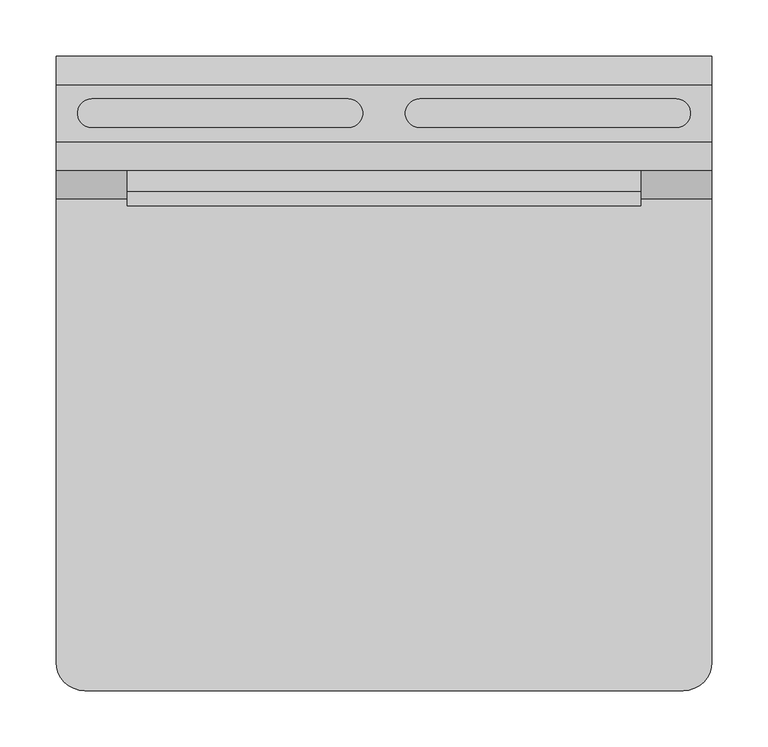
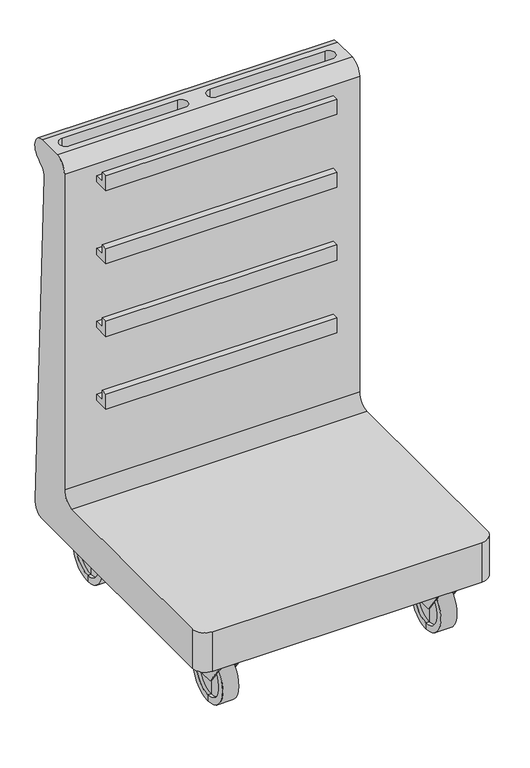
"""IFC4 building model written with IfcOpenShell, lengths in millimetres: furniture geometry."""

import ifcopenshell
import ifcopenshell.guid

model = None  # the IFC model being written
_history = None  # IfcOwnerHistory: only IFC2X3 demands one
_inside = {}  # id of a spatial element -> (the spatial element, [elements in it])
_under = {}  # id of a project, library or spatial element -> (it, [spatial elements below it])
_declared = {}  # id of a project -> (the project, [libraries it declares])
_typed = {}  # id of a type object -> (the type object, [elements of that type])
_made_of = {}  # id of a material, layer set ... -> (it, [elements and type objects made of it])


def new_model(schema):
    """Start an empty IFC model of exactly this schema.

    Asked for "IFC4X3", IfcOpenShell would pick the latest addendum, in which some entities
    have other attributes; the version numbers below select the first issue.
    IFC2X3 requires an IfcOwnerHistory on every rooted entity: one is made here for all.
    """
    global model, _history
    if schema == "IFC4X3":
        model = ifcopenshell.file(schema_version=(4, 3, 0, 0))
    else:
        model = ifcopenshell.file(schema=schema)
    _inside.clear()
    _under.clear()
    _declared.clear()
    _typed.clear()
    _made_of.clear()
    _history = None
    if model.schema == "IFC2X3":
        org = make("IfcOrganization", Name="unknown")
        user = make(
            "IfcPersonAndOrganization",
            ThePerson=make("IfcPerson", FamilyName="unknown"),
            TheOrganization=org,
        )
        app = make(
            "IfcApplication",
            ApplicationDeveloper=org,
            Version="unknown",
            ApplicationFullName="unknown",
            ApplicationIdentifier="unknown",
        )
        _history = make(
            "IfcOwnerHistory",
            OwningUser=user,
            OwningApplication=app,
            ChangeAction="ADDED",
            CreationDate=0,
        )
    return model


def make(cls, **values):
    """One entity of the class cls with the attributes given. An attribute that is None is left unset."""
    return model.create_entity(
        cls, **{name: value for name, value in values.items() if value is not None}
    )


def rooted(cls, **values):
    """An entity with a GlobalId (a new one), such as an element, a storey or a relation."""
    return make(cls, GlobalId=ifcopenshell.guid.new(), OwnerHistory=_history, **values)


def si_unit(unit_type, name, prefix=None):
    """IfcSIUnit, for example si_unit("LENGTHUNIT", "METRE", prefix="MILLI")."""
    return make("IfcSIUnit", UnitType=unit_type, Prefix=prefix, Name=name)


def assignment(units):
    """IfcUnitAssignment: the units of a project."""
    return None if units is None else make("IfcUnitAssignment", Units=units)


def point(xyz):
    """IfcCartesianPoint."""
    return None if xyz is None else make("IfcCartesianPoint", Coordinates=xyz)


def direction(xyz):
    """IfcDirection."""
    return None if xyz is None else make("IfcDirection", DirectionRatios=xyz)


def frame(location, z_axis=None, x_axis=None):
    """IfcAxis2Placement3D, a coordinate frame: its origin and axes. An axis left out is left unset."""
    return make(
        "IfcAxis2Placement3D",
        Location=point(location),
        Axis=direction(z_axis),
        RefDirection=direction(x_axis),
    )


def origin():
    """The frame at (0, 0, 0) with its axes left unset."""
    return frame((0.0, 0.0, 0.0))


def place(relative_to, where):
    """IfcLocalPlacement: puts the frame where relative to a parent placement (None: the world)."""
    return make(
        "IfcLocalPlacement", PlacementRelTo=relative_to, RelativePlacement=where
    )


def context(
    kind, dimensions, precision=None, world=None, true_north=None, identifier=None
):
    """IfcGeometricRepresentationContext, for example the 3D "Model" context."""
    return make(
        "IfcGeometricRepresentationContext",
        ContextIdentifier=identifier,
        ContextType=kind,
        CoordinateSpaceDimension=dimensions,
        Precision=precision,
        WorldCoordinateSystem=world,
        TrueNorth=true_north,
    )


def project(units=None, contexts=None):
    """IfcProject with its units and contexts."""
    return rooted(
        "IfcProject",
        Name="project",
        RepresentationContexts=contexts,
        UnitsInContext=assignment(units),
    )


def spatial(cls, under=None, at=None, **own):
    """A site, building, storey or space (cls), placed at a placement, below another one or the project."""
    s = rooted(cls, ObjectPlacement=at, **own)
    if under is not None:
        _under.setdefault(under.id(), (under, []))[1].append(s)
    return s


def polyline(points):
    """IfcPolyline through the points."""
    return make("IfcPolyline", Points=[point(p) for p in points])


def circle_curve(where, radius):
    """IfcCircle in the frame where."""
    return make("IfcCircle", Position=where, Radius=radius)


def outline(outer, holes=None, kind="AREA"):
    """IfcArbitraryClosedProfileDef: a profile drawn as a closed curve; with holes, ...WithVoids."""
    if holes is None:
        return make("IfcArbitraryClosedProfileDef", ProfileType=kind, OuterCurve=outer)
    return make(
        "IfcArbitraryProfileDefWithVoids",
        ProfileType=kind,
        OuterCurve=outer,
        InnerCurves=holes,
    )


def extrude(swept, where, along, depth):
    """IfcExtrudedAreaSolid: the profile swept, set in the frame where, extruded along a direction by depth."""
    return make(
        "IfcExtrudedAreaSolid",
        SweptArea=swept,
        Position=where,
        ExtrudedDirection=direction(along),
        Depth=depth,
    )


def faces_of(points, faces, orient=None, outer=None):
    """IfcFace entities. A face is a list of loops; a loop is a list of indices into points, from 0.

    orient and outer hold one flag for each loop. By default every Orientation is true, the
    first loop of a face is its IfcFaceOuterBound and the others are IfcFaceBound.
    """
    made = []
    for i, loops in enumerate(faces):
        bounds = []
        for j, loop in enumerate(loops):
            is_outer = j == 0 if outer is None else outer[i][j]
            bounds.append(
                make(
                    "IfcFaceOuterBound" if is_outer else "IfcFaceBound",
                    Bound=make("IfcPolyLoop", Polygon=[points[k] for k in loop]),
                    Orientation=True if orient is None else orient[i][j],
                )
            )
        made.append(make("IfcFace", Bounds=bounds))
    return made


def faceted_brep(points, faces, orient=None, outer=None, voids=None):
    """IfcFacetedBrep: a solid bounded by flat faces; with voids (closed shells), ...WithVoids."""
    shared = [point(p) for p in points]
    hull = make("IfcClosedShell", CfsFaces=faces_of(shared, faces, orient, outer))
    if voids is None:
        return make("IfcFacetedBrep", Outer=hull)
    return make(
        "IfcFacetedBrepWithVoids",
        Outer=hull,
        Voids=[
            make(cls, CfsFaces=faces_of(shared, fs, o, b)) for cls, fs, o, b in voids
        ],
    )


def shape(context_of_items, identifier, shape_type, items):
    """IfcShapeRepresentation: the items that make up one representation, for example the "Body"."""
    return make(
        "IfcShapeRepresentation",
        ContextOfItems=context_of_items,
        RepresentationIdentifier=identifier,
        RepresentationType=shape_type,
        Items=items,
    )


def source(mapping_origin, context_of_items, identifier, shape_type, items):
    """IfcRepresentationMap: a shape defined once, which mapped items show again and again."""
    return make(
        "IfcRepresentationMap",
        MappingOrigin=mapping_origin,
        MappedRepresentation=shape(context_of_items, identifier, shape_type, items),
    )


def transform(
    local_origin,
    x_axis=None,
    y_axis=None,
    z_axis=None,
    scale=None,
    scale2=None,
    scale3=None,
    uniform=True,
):
    """IfcCartesianTransformationOperator3D, or its non-uniform kind. x_axis, y_axis, z_axis: its Axis1, 2, 3."""
    if uniform:
        return make(
            "IfcCartesianTransformationOperator3D",
            Axis1=direction(x_axis),
            Axis2=direction(y_axis),
            LocalOrigin=point(local_origin),
            Scale=scale,
            Axis3=direction(z_axis),
        )
    return make(
        "IfcCartesianTransformationOperator3DnonUniform",
        Axis1=direction(x_axis),
        Axis2=direction(y_axis),
        LocalOrigin=point(local_origin),
        Scale=scale,
        Axis3=direction(z_axis),
        Scale2=scale2,
        Scale3=scale3,
    )


def mapped(mapping_source, mapping_target):
    """IfcMappedItem: shows the shape of a source again, moved by a transform."""
    return make(
        "IfcMappedItem", MappingSource=mapping_source, MappingTarget=mapping_target
    )


def made_of(thing, what):
    """Note that an element or type object is made of a material, layer set ...; save() writes the relation."""
    if what is not None:
        _made_of.setdefault(what.id(), (what, []))[1].append(thing)
    return thing


def element(
    cls,
    number,
    at=None,
    inside=None,
    cuts=None,
    type_object=None,
    material=None,
    context=None,
    identifier="Body",
    shape_type=None,
    held_by="IfcProductDefinitionShape",
    body=None,
    shapes=None,
    **own,
):
    """One element of the class cls, such as IfcWall. Its Tag is "e" and its number.

    at: its placement. inside: the storey or other place that contains it. cuts: it is an
    opening in that element (IfcRelVoidsElement). A single representation is given by context,
    identifier, shape_type and body (its items); several are given by shapes. held_by: the class
    of the entity that holds the representations. save() writes the other relations.
    """
    e = rooted(cls, Tag="e%d" % number, ObjectPlacement=at, **own)
    if body is not None:
        shapes = [shape(context, identifier, shape_type, body)]
    if shapes is not None:
        e.Representation = make(held_by, Representations=shapes)
    if inside is not None:
        _inside.setdefault(inside.id(), (inside, []))[1].append(e)
    if cuts is not None:
        rooted(
            "IfcRelVoidsElement", RelatingBuildingElement=cuts, RelatedOpeningElement=e
        )
    if type_object is not None:
        _typed.setdefault(type_object.id(), (type_object, []))[1].append(e)
    return made_of(e, material)


def aggregate(whole, parts):
    """IfcRelAggregates: a whole, such as a stair, and the parts it consists of."""
    return rooted("IfcRelAggregates", RelatingObject=whole, RelatedObjects=parts)


def save(model, path):
    """Write the relations noted so far, then the file.

    IfcRelAggregates (storeys below a building ...), IfcRelContainedInSpatialStructure (elements
    in a storey), IfcRelDefinesByType, IfcRelAssociatesMaterial and IfcRelDeclares: one each for
    every whole, place, type object, material and project.
    """
    for whole, parts in _under.values():
        aggregate(whole, parts)
    for where, things in _inside.values():
        rooted(
            "IfcRelContainedInSpatialStructure",
            RelatedElements=things,
            RelatingStructure=where,
        )
    for kind, things in _typed.values():
        rooted("IfcRelDefinesByType", RelatedObjects=things, RelatingType=kind)
    for what, things in _made_of.values():
        rooted("IfcRelAssociatesMaterial", RelatedObjects=things, RelatingMaterial=what)
    for by, libraries in _declared.values():
        rooted("IfcRelDeclares", RelatingContext=by, RelatedDefinitions=libraries)
    model.write(path)


def plane_surface(at):
    """IfcPlane: the flat surface through the origin of the frame at, square to its z axis."""
    return make("IfcPlane", Position=at)


def cylinder_surface(at, radius):
    """IfcCylindricalSurface: all points at the distance radius from the z axis of the frame at."""
    return make("IfcCylindricalSurface", Position=at, Radius=radius)


def revolved_surface(curve, axis_point, axis_direction):
    """IfcSurfaceOfRevolution: the curve turned about the line through axis_point along axis_direction."""
    return make(
        "IfcSurfaceOfRevolution",
        SweptCurve=make("IfcArbitraryOpenProfileDef", ProfileType="CURVE", Curve=curve),
        AxisPosition=make("IfcAxis1Placement", Location=point(axis_point), Axis=direction(axis_direction)),
    )


def advanced_brep(points, edges, surfaces, faces):
    """IfcAdvancedBrep: a solid bounded by faces that lie on surfaces and meet in shared edges.

    An edge is (start, end): straight between two places in points (the first is 0);
    or (start, end, curve); or (start, end, curve, False) where it runs against its curve.
    A face is (place in surfaces, loops), or (place, loops, False) where it looks against
    its surface's normal. A loop lists edges by number (the first is 1), with a minus sign
    where the edge is run from its end to its start. The first loop is the outer one.
    """
    corners = [point(p) for p in points]
    vertices = [make("IfcVertexPoint", VertexGeometry=c) for c in corners]
    made = []
    for start, end, *more in edges:
        made.append(
            make(
                "IfcEdgeCurve",
                EdgeStart=vertices[start],
                EdgeEnd=vertices[end],
                EdgeGeometry=more[0] if more else make("IfcPolyline", Points=[corners[start], corners[end]]),
                SameSense=more[1] if len(more) > 1 else True,
            )
        )
    hull = []
    for where, loops, *sense in faces:
        bounds = []
        for j, loop in enumerate(loops):
            ring = [make("IfcOrientedEdge", EdgeElement=made[abs(k) - 1], Orientation=k > 0) for k in loop]
            bounds.append(
                make(
                    "IfcFaceOuterBound" if j == 0 else "IfcFaceBound",
                    Bound=make("IfcEdgeLoop", EdgeList=ring),
                    Orientation=True,
                )
            )
        hull.append(make("IfcAdvancedFace", Bounds=bounds, FaceSurface=surfaces[where], SameSense=sense[0] if sense else True))
    return make("IfcAdvancedBrep", Outer=make("IfcClosedShell", CfsFaces=hull))


def furniture_545f82d3(model_context):
    return source(origin(), model_context, "Body", "SolidModel", [
        advanced_brep(
        [(-231.775, 206.375, 0.0), (-231.775, 206.375, 101.6), (-200.025, 206.375, 101.6), (-200.025, 206.375, 0.0), (-231.775, 206.375, 12.7), (-231.775, 206.375, 88.9), (-225.425, 206.375, 12.7), (-225.425, 206.375, 88.9), (-225.425, 206.375, 50.8), (-206.375, 206.375, 12.7), (-206.375, 206.375, 88.9), (-206.375, 206.375, 50.8), (-200.025, 206.375, 12.7), (-200.025, 206.375, 88.9)],
        [
            (0, 1, circle_curve(frame((-231.775, 206.375, 50.8), z_axis=(1.0, 0.0, 0.0), x_axis=(0.0, 0.0, 1.0)), 50.8)),
            (1, 2),
            (2, 3, circle_curve(frame((-200.025, 206.375, 50.8), z_axis=(-1.0, 0.0, 0.0), x_axis=(0.0, 0.0, 1.0)), 50.8)),
            (3, 0),
            (1, 0, circle_curve(frame((-231.775, 206.375, 50.8), z_axis=(1.0, 0.0, 0.0), x_axis=(0.0, 0.0, 1.0)), 50.8)),
            (3, 2, circle_curve(frame((-200.025, 206.375, 50.8), z_axis=(-1.0, 0.0, 0.0), x_axis=(0.0, 0.0, 1.0)), 50.8)),
            (4, 5, circle_curve(frame((-231.775, 206.375, 50.8), z_axis=(1.0, 0.0, 0.0), x_axis=(0.0, 0.0, 1.0)), 38.1)),
            (5, 1),
            (0, 4),
            (5, 4, circle_curve(frame((-231.775, 206.375, 50.8), z_axis=(1.0, 0.0, 0.0), x_axis=(0.0, 0.0, 1.0)), 38.1)),
            (6, 7, circle_curve(frame((-225.425, 206.375, 50.8), z_axis=(1.0, 0.0, 0.0), x_axis=(0.0, 0.0, 1.0)), 38.1)),
            (7, 5),
            (4, 6),
            (7, 6, circle_curve(frame((-225.425, 206.375, 50.8), z_axis=(1.0, 0.0, 0.0), x_axis=(0.0, 0.0, 1.0)), 38.1)),
            (8, 7),
            (6, 8),
            (9, 10, circle_curve(frame((-206.375, 206.375, 50.8), z_axis=(1.0, 0.0, 0.0), x_axis=(0.0, 0.0, 1.0)), 38.1)),
            (10, 11),
            (11, 9),
            (10, 9, circle_curve(frame((-206.375, 206.375, 50.8), z_axis=(1.0, 0.0, 0.0), x_axis=(0.0, 0.0, 1.0)), 38.1)),
            (12, 13, circle_curve(frame((-200.025, 206.375, 50.8), z_axis=(1.0, 0.0, 0.0), x_axis=(0.0, 0.0, 1.0)), 38.1)),
            (13, 10),
            (9, 12),
            (13, 12, circle_curve(frame((-200.025, 206.375, 50.8), z_axis=(1.0, 0.0, 0.0), x_axis=(0.0, 0.0, 1.0)), 38.1)),
            (2, 13),
            (12, 3),
        ],
        [
            cylinder_surface(frame((-234.95, 206.375, 50.8), z_axis=(-1.0, 0.0, 0.0), x_axis=(0.0, 0.0, 1.0)), 50.8),
            plane_surface(frame((-231.775, 206.375, 50.8), z_axis=(-1.0, 0.0, 0.0), x_axis=(0.0, 0.0, 1.0))),
            revolved_surface(polyline([(-231.775, 206.375, 88.9), (-225.425, 206.375, 88.9)]), (-234.95, 206.375, 50.8), (-1.0, 0.0, 0.0)),
            plane_surface(frame((-225.425, 206.375, 50.8), z_axis=(-1.0, 0.0, 0.0), x_axis=(0.0, 0.0, 1.0))),
            plane_surface(frame((-206.375, 206.375, 50.8), z_axis=(1.0, 0.0, 0.0), x_axis=(0.0, 0.0, 1.0))),
            revolved_surface(polyline([(-206.375, 206.375, 88.9), (-200.025, 206.375, 88.9)]), (-234.95, 206.375, 50.8), (-1.0, 0.0, 0.0)),
            plane_surface(frame((-200.025, 206.375, 50.8), z_axis=(1.0, 0.0, 0.0), x_axis=(0.0, 0.0, 1.0))),
        ],
        [
            (0, [[1, 2, 3, 4]]),
            (0, [[5, -4, 6, -2]]),
            (1, [[7, 8, -1, 9]]),
            (1, [[10, -9, -5, -8]]),
            (2, [[11, 12, -7, 13]]),
            (2, [[14, -13, -10, -12]]),
            (3, [[15, -11, 16]]),
            (3, [[-16, -14, -15]]),
            (4, [[17, 18, 19]]),
            (4, [[20, -19, -18]]),
            (5, [[21, 22, -17, 23]]),
            (5, [[24, -23, -20, -22]]),
            (6, [[-3, 25, -21, 26]]),
            (6, [[-6, -26, -24, -25]]),
        ],
    ),
        faceted_brep([(-196.85, 219.075, 120.65), (-196.85, 219.075, 50.8), (-200.025, 219.075, 50.8), (-200.025, 219.075, 117.475), (-231.775, 219.075, 117.475), (-231.775, 219.075, 50.8), (-234.95, 219.075, 50.8), (-234.95, 219.075, 120.65), (-234.95, 142.875, 120.65), (-196.85, 142.875, 120.65), (-234.95, 193.675, 50.8), (-231.775, 193.675, 50.8), (-231.775, 145.1840909, 117.475), (-200.025, 145.1840909, 117.475), (-200.025, 193.675, 50.8), (-196.85, 193.675, 50.8)], [[[0, 1, 2, 3, 4, 5, 6, 7]], [[0, 7, 8, 9]], [[7, 6, 10, 8]], [[6, 5, 11, 10]], [[5, 4, 12, 11]], [[4, 3, 13, 12]], [[3, 2, 14, 13]], [[2, 1, 15, 14]], [[1, 0, 9, 15]], [[9, 8, 10, 11, 12, 13, 14, 15]]]),
        advanced_brep(
        [(200.025, 206.375, 0.0), (200.025, 206.375, 101.6), (231.775, 206.375, 101.6), (231.775, 206.375, 0.0), (200.025, 206.375, 12.7), (200.025, 206.375, 88.9), (206.375, 206.375, 12.7), (206.375, 206.375, 88.9), (206.375, 206.375, 50.8), (225.425, 206.375, 12.7), (225.425, 206.375, 88.9), (225.425, 206.375, 50.8), (231.775, 206.375, 12.7), (231.775, 206.375, 88.9)],
        [
            (0, 1, circle_curve(frame((200.025, 206.375, 50.8), z_axis=(1.0, 0.0, 0.0), x_axis=(0.0, 0.0, 1.0)), 50.8)),
            (1, 2),
            (2, 3, circle_curve(frame((231.775, 206.375, 50.8), z_axis=(-1.0, 0.0, 0.0), x_axis=(0.0, 0.0, 1.0)), 50.8)),
            (3, 0),
            (1, 0, circle_curve(frame((200.025, 206.375, 50.8), z_axis=(1.0, 0.0, 0.0), x_axis=(0.0, 0.0, 1.0)), 50.8)),
            (3, 2, circle_curve(frame((231.775, 206.375, 50.8), z_axis=(-1.0, 0.0, 0.0), x_axis=(0.0, 0.0, 1.0)), 50.8)),
            (4, 5, circle_curve(frame((200.025, 206.375, 50.8), z_axis=(1.0, 0.0, 0.0), x_axis=(0.0, 0.0, 1.0)), 38.1)),
            (5, 1),
            (0, 4),
            (5, 4, circle_curve(frame((200.025, 206.375, 50.8), z_axis=(1.0, 0.0, 0.0), x_axis=(0.0, 0.0, 1.0)), 38.1)),
            (6, 7, circle_curve(frame((206.375, 206.375, 50.8), z_axis=(1.0, 0.0, 0.0), x_axis=(0.0, 0.0, 1.0)), 38.1)),
            (7, 5),
            (4, 6),
            (7, 6, circle_curve(frame((206.375, 206.375, 50.8), z_axis=(1.0, 0.0, 0.0), x_axis=(0.0, 0.0, 1.0)), 38.1)),
            (8, 7),
            (6, 8),
            (9, 10, circle_curve(frame((225.425, 206.375, 50.8), z_axis=(1.0, 0.0, 0.0), x_axis=(0.0, 0.0, 1.0)), 38.1)),
            (10, 11),
            (11, 9),
            (10, 9, circle_curve(frame((225.425, 206.375, 50.8), z_axis=(1.0, 0.0, 0.0), x_axis=(0.0, 0.0, 1.0)), 38.1)),
            (12, 13, circle_curve(frame((231.775, 206.375, 50.8), z_axis=(1.0, 0.0, 0.0), x_axis=(0.0, 0.0, 1.0)), 38.1)),
            (13, 10),
            (9, 12),
            (13, 12, circle_curve(frame((231.775, 206.375, 50.8), z_axis=(1.0, 0.0, 0.0), x_axis=(0.0, 0.0, 1.0)), 38.1)),
            (2, 13),
            (12, 3),
        ],
        [
            cylinder_surface(frame((196.85, 206.375, 50.8), z_axis=(-1.0, 0.0, 0.0), x_axis=(0.0, 0.0, 1.0)), 50.8),
            plane_surface(frame((200.025, 206.375, 50.8), z_axis=(-1.0, 0.0, 0.0), x_axis=(0.0, 0.0, 1.0))),
            revolved_surface(polyline([(200.025, 206.375, 88.9), (206.375, 206.375, 88.9)]), (196.85, 206.375, 50.8), (-1.0, 0.0, 0.0)),
            plane_surface(frame((206.375, 206.375, 50.8), z_axis=(-1.0, 0.0, 0.0), x_axis=(0.0, 0.0, 1.0))),
            plane_surface(frame((225.425, 206.375, 50.8), z_axis=(1.0, 0.0, 0.0), x_axis=(0.0, 0.0, 1.0))),
            revolved_surface(polyline([(225.425, 206.375, 88.9), (231.775, 206.375, 88.9)]), (196.85, 206.375, 50.8), (-1.0, 0.0, 0.0)),
            plane_surface(frame((231.775, 206.375, 50.8), z_axis=(1.0, 0.0, 0.0), x_axis=(0.0, 0.0, 1.0))),
        ],
        [
            (0, [[1, 2, 3, 4]]),
            (0, [[5, -4, 6, -2]]),
            (1, [[7, 8, -1, 9]]),
            (1, [[10, -9, -5, -8]]),
            (2, [[11, 12, -7, 13]]),
            (2, [[14, -13, -10, -12]]),
            (3, [[15, -11, 16]]),
            (3, [[-16, -14, -15]]),
            (4, [[17, 18, 19]]),
            (4, [[20, -19, -18]]),
            (5, [[21, 22, -17, 23]]),
            (5, [[24, -23, -20, -22]]),
            (6, [[-3, 25, -21, 26]]),
            (6, [[-6, -26, -24, -25]]),
        ],
    ),
        faceted_brep([(234.95, 219.075, 120.65), (234.95, 219.075, 50.8), (231.775, 219.075, 50.8), (231.775, 219.075, 117.475), (200.025, 219.075, 117.475), (200.025, 219.075, 50.8), (196.85, 219.075, 50.8), (196.85, 219.075, 120.65), (196.85, 142.875, 120.65), (234.95, 142.875, 120.65), (196.85, 193.675, 50.8), (200.025, 193.675, 50.8), (200.025, 145.1840909, 117.475), (231.775, 145.1840909, 117.475), (231.775, 193.675, 50.8), (234.95, 193.675, 50.8)], [[[0, 1, 2, 3, 4, 5, 6, 7]], [[0, 7, 8, 9]], [[7, 6, 10, 8]], [[6, 5, 11, 10]], [[5, 4, 12, 11]], [[4, 3, 13, 12]], [[3, 2, 14, 13]], [[2, 1, 15, 14]], [[1, 0, 9, 15]], [[9, 8, 10, 11, 12, 13, 14, 15]]]),
        advanced_brep(
        [(200.025, -206.375, 0.0), (200.025, -206.375, 101.6), (231.775, -206.375, 101.6), (231.775, -206.375, 0.0), (200.025, -206.375, 12.7), (200.025, -206.375, 88.9), (206.375, -206.375, 12.7), (206.375, -206.375, 88.9), (206.375, -206.375, 50.8), (225.425, -206.375, 12.7), (225.425, -206.375, 88.9), (225.425, -206.375, 50.8), (231.775, -206.375, 12.7), (231.775, -206.375, 88.9)],
        [
            (0, 1, circle_curve(frame((200.025, -206.375, 50.8), z_axis=(1.0, 0.0, 0.0), x_axis=(0.0, 0.0, 1.0)), 50.8)),
            (1, 2),
            (2, 3, circle_curve(frame((231.775, -206.375, 50.8), z_axis=(-1.0, 0.0, 0.0), x_axis=(0.0, 0.0, 1.0)), 50.8)),
            (3, 0),
            (1, 0, circle_curve(frame((200.025, -206.375, 50.8), z_axis=(1.0, 0.0, 0.0), x_axis=(0.0, 0.0, 1.0)), 50.8)),
            (3, 2, circle_curve(frame((231.775, -206.375, 50.8), z_axis=(-1.0, 0.0, 0.0), x_axis=(0.0, 0.0, 1.0)), 50.8)),
            (4, 5, circle_curve(frame((200.025, -206.375, 50.8), z_axis=(1.0, 0.0, 0.0), x_axis=(0.0, 0.0, 1.0)), 38.1)),
            (5, 1),
            (0, 4),
            (5, 4, circle_curve(frame((200.025, -206.375, 50.8), z_axis=(1.0, 0.0, 0.0), x_axis=(0.0, 0.0, 1.0)), 38.1)),
            (6, 7, circle_curve(frame((206.375, -206.375, 50.8), z_axis=(1.0, 0.0, 0.0), x_axis=(0.0, 0.0, 1.0)), 38.1)),
            (7, 5),
            (4, 6),
            (7, 6, circle_curve(frame((206.375, -206.375, 50.8), z_axis=(1.0, 0.0, 0.0), x_axis=(0.0, 0.0, 1.0)), 38.1)),
            (8, 7),
            (6, 8),
            (9, 10, circle_curve(frame((225.425, -206.375, 50.8), z_axis=(1.0, 0.0, 0.0), x_axis=(0.0, 0.0, 1.0)), 38.1)),
            (10, 11),
            (11, 9),
            (10, 9, circle_curve(frame((225.425, -206.375, 50.8), z_axis=(1.0, 0.0, 0.0), x_axis=(0.0, 0.0, 1.0)), 38.1)),
            (12, 13, circle_curve(frame((231.775, -206.375, 50.8), z_axis=(1.0, 0.0, 0.0), x_axis=(0.0, 0.0, 1.0)), 38.1)),
            (13, 10),
            (9, 12),
            (13, 12, circle_curve(frame((231.775, -206.375, 50.8), z_axis=(1.0, 0.0, 0.0), x_axis=(0.0, 0.0, 1.0)), 38.1)),
            (2, 13),
            (12, 3),
        ],
        [
            cylinder_surface(frame((196.85, -206.375, 50.8), z_axis=(-1.0, 0.0, 0.0), x_axis=(0.0, 0.0, 1.0)), 50.8),
            plane_surface(frame((200.025, -206.375, 50.8), z_axis=(-1.0, 0.0, 0.0), x_axis=(0.0, 0.0, 1.0))),
            revolved_surface(polyline([(200.025, -206.375, 88.9), (206.375, -206.375, 88.9)]), (196.85, -206.375, 50.8), (-1.0, 0.0, 0.0)),
            plane_surface(frame((206.375, -206.375, 50.8), z_axis=(-1.0, 0.0, 0.0), x_axis=(0.0, 0.0, 1.0))),
            plane_surface(frame((225.425, -206.375, 50.8), z_axis=(1.0, 0.0, 0.0), x_axis=(0.0, 0.0, 1.0))),
            revolved_surface(polyline([(225.425, -206.375, 88.9), (231.775, -206.375, 88.9)]), (196.85, -206.375, 50.8), (-1.0, 0.0, 0.0)),
            plane_surface(frame((231.775, -206.375, 50.8), z_axis=(1.0, 0.0, 0.0), x_axis=(0.0, 0.0, 1.0))),
        ],
        [
            (0, [[1, 2, 3, 4]]),
            (0, [[5, -4, 6, -2]]),
            (1, [[7, 8, -1, 9]]),
            (1, [[10, -9, -5, -8]]),
            (2, [[11, 12, -7, 13]]),
            (2, [[14, -13, -10, -12]]),
            (3, [[15, -11, 16]]),
            (3, [[-16, -14, -15]]),
            (4, [[17, 18, 19]]),
            (4, [[20, -19, -18]]),
            (5, [[21, 22, -17, 23]]),
            (5, [[24, -23, -20, -22]]),
            (6, [[-3, 25, -21, 26]]),
            (6, [[-6, -26, -24, -25]]),
        ],
    ),
        faceted_brep([(234.95, -193.675, 120.65), (234.95, -193.675, 50.8), (231.775, -193.675, 50.8), (231.775, -193.675, 117.475), (200.025, -193.675, 117.475), (200.025, -193.675, 50.8), (196.85, -193.675, 50.8), (196.85, -193.675, 120.65), (196.85, -269.875, 120.65), (234.95, -269.875, 120.65), (196.85, -219.075, 50.8), (200.025, -219.075, 50.8), (200.025, -267.5659091, 117.475), (231.775, -267.5659091, 117.475), (231.775, -219.075, 50.8), (234.95, -219.075, 50.8)], [[[0, 1, 2, 3, 4, 5, 6, 7]], [[0, 7, 8, 9]], [[7, 6, 10, 8]], [[6, 5, 11, 10]], [[5, 4, 12, 11]], [[4, 3, 13, 12]], [[3, 2, 14, 13]], [[2, 1, 15, 14]], [[1, 0, 9, 15]], [[9, 8, 10, 11, 12, 13, 14, 15]]]),
        advanced_brep(
        [(-231.775, -206.375, 0.0), (-231.775, -206.375, 101.6), (-200.025, -206.375, 101.6), (-200.025, -206.375, 0.0), (-231.775, -206.375, 12.7), (-231.775, -206.375, 88.9), (-225.425, -206.375, 12.7), (-225.425, -206.375, 88.9), (-225.425, -206.375, 50.8), (-206.375, -206.375, 12.7), (-206.375, -206.375, 88.9), (-206.375, -206.375, 50.8), (-200.025, -206.375, 12.7), (-200.025, -206.375, 88.9)],
        [
            (0, 1, circle_curve(frame((-231.775, -206.375, 50.8), z_axis=(1.0, 0.0, 0.0), x_axis=(0.0, 0.0, 1.0)), 50.8)),
            (1, 2),
            (2, 3, circle_curve(frame((-200.025, -206.375, 50.8), z_axis=(-1.0, 0.0, 0.0), x_axis=(0.0, 0.0, 1.0)), 50.8)),
            (3, 0),
            (1, 0, circle_curve(frame((-231.775, -206.375, 50.8), z_axis=(1.0, 0.0, 0.0), x_axis=(0.0, 0.0, 1.0)), 50.8)),
            (3, 2, circle_curve(frame((-200.025, -206.375, 50.8), z_axis=(-1.0, 0.0, 0.0), x_axis=(0.0, 0.0, 1.0)), 50.8)),
            (4, 5, circle_curve(frame((-231.775, -206.375, 50.8), z_axis=(1.0, 0.0, 0.0), x_axis=(0.0, 0.0, 1.0)), 38.1)),
            (5, 1),
            (0, 4),
            (5, 4, circle_curve(frame((-231.775, -206.375, 50.8), z_axis=(1.0, 0.0, 0.0), x_axis=(0.0, 0.0, 1.0)), 38.1)),
            (6, 7, circle_curve(frame((-225.425, -206.375, 50.8), z_axis=(1.0, 0.0, 0.0), x_axis=(0.0, 0.0, 1.0)), 38.1)),
            (7, 5),
            (4, 6),
            (7, 6, circle_curve(frame((-225.425, -206.375, 50.8), z_axis=(1.0, 0.0, 0.0), x_axis=(0.0, 0.0, 1.0)), 38.1)),
            (8, 7),
            (6, 8),
            (9, 10, circle_curve(frame((-206.375, -206.375, 50.8), z_axis=(1.0, 0.0, 0.0), x_axis=(0.0, 0.0, 1.0)), 38.1)),
            (10, 11),
            (11, 9),
            (10, 9, circle_curve(frame((-206.375, -206.375, 50.8), z_axis=(1.0, 0.0, 0.0), x_axis=(0.0, 0.0, 1.0)), 38.1)),
            (12, 13, circle_curve(frame((-200.025, -206.375, 50.8), z_axis=(1.0, 0.0, 0.0), x_axis=(0.0, 0.0, 1.0)), 38.1)),
            (13, 10),
            (9, 12),
            (13, 12, circle_curve(frame((-200.025, -206.375, 50.8), z_axis=(1.0, 0.0, 0.0), x_axis=(0.0, 0.0, 1.0)), 38.1)),
            (2, 13),
            (12, 3),
        ],
        [
            cylinder_surface(frame((-234.95, -206.375, 50.8), z_axis=(-1.0, 0.0, 0.0), x_axis=(0.0, 0.0, 1.0)), 50.8),
            plane_surface(frame((-231.775, -206.375, 50.8), z_axis=(-1.0, 0.0, 0.0), x_axis=(0.0, 0.0, 1.0))),
            revolved_surface(polyline([(-231.775, -206.375, 88.9), (-225.425, -206.375, 88.9)]), (-234.95, -206.375, 50.8), (-1.0, 0.0, 0.0)),
            plane_surface(frame((-225.425, -206.375, 50.8), z_axis=(-1.0, 0.0, 0.0), x_axis=(0.0, 0.0, 1.0))),
            plane_surface(frame((-206.375, -206.375, 50.8), z_axis=(1.0, 0.0, 0.0), x_axis=(0.0, 0.0, 1.0))),
            revolved_surface(polyline([(-206.375, -206.375, 88.9), (-200.025, -206.375, 88.9)]), (-234.95, -206.375, 50.8), (-1.0, 0.0, 0.0)),
            plane_surface(frame((-200.025, -206.375, 50.8), z_axis=(1.0, 0.0, 0.0), x_axis=(0.0, 0.0, 1.0))),
        ],
        [
            (0, [[1, 2, 3, 4]]),
            (0, [[5, -4, 6, -2]]),
            (1, [[7, 8, -1, 9]]),
            (1, [[10, -9, -5, -8]]),
            (2, [[11, 12, -7, 13]]),
            (2, [[14, -13, -10, -12]]),
            (3, [[15, -11, 16]]),
            (3, [[-16, -14, -15]]),
            (4, [[17, 18, 19]]),
            (4, [[20, -19, -18]]),
            (5, [[21, 22, -17, 23]]),
            (5, [[24, -23, -20, -22]]),
            (6, [[-3, 25, -21, 26]]),
            (6, [[-6, -26, -24, -25]]),
        ],
    ),
        faceted_brep([(-196.85, -193.675, 120.65), (-196.85, -193.675, 50.8), (-200.025, -193.675, 50.8), (-200.025, -193.675, 117.475), (-231.775, -193.675, 117.475), (-231.775, -193.675, 50.8), (-234.95, -193.675, 50.8), (-234.95, -193.675, 120.65), (-234.95, -269.875, 120.65), (-196.85, -269.875, 120.65), (-234.95, -219.075, 50.8), (-231.775, -219.075, 50.8), (-231.775, -267.5659091, 117.475), (-200.025, -267.5659091, 117.475), (-200.025, -219.075, 50.8), (-196.85, -219.075, 50.8)], [[[0, 1, 2, 3, 4, 5, 6, 7]], [[0, 7, 8, 9]], [[7, 6, 10, 8]], [[6, 5, 11, 10]], [[5, 4, 12, 11]], [[4, 3, 13, 12]], [[3, 2, 14, 13]], [[2, 1, 15, 14]], [[1, 0, 9, 15]], [[9, 8, 10, 11, 12, 13, 14, 15]]]),
        extrude(outline(polyline([(149.225, 850.9), (149.225, 882.65), (161.925, 882.65), (161.925, 863.6), (180.975, 863.6), (180.975, 850.9), (149.225, 850.9)])), frame((-228.6, 0.0, 0.0), z_axis=(1.0, 0.0, 0.0), x_axis=(0.0, 1.0, 0.0)), (0.0, 0.0, 1.0), 457.2),
        extrude(outline(polyline([(149.225, 698.5), (149.225, 730.25), (161.925, 730.25), (161.925, 711.2), (180.975, 711.2), (180.975, 698.5), (149.225, 698.5)])), frame((-228.6, 0.0, 0.0), z_axis=(1.0, 0.0, 0.0), x_axis=(0.0, 1.0, 0.0)), (0.0, 0.0, 1.0), 457.2),
        extrude(outline(polyline([(149.225, 546.1), (149.225, 577.85), (161.925, 577.85), (161.925, 558.8), (180.975, 558.8), (180.975, 546.1), (149.225, 546.1)])), frame((-228.6, 0.0, 0.0), z_axis=(1.0, 0.0, 0.0), x_axis=(0.0, 1.0, 0.0)), (0.0, 0.0, 1.0), 457.2),
        extrude(outline(polyline([(149.225, 393.7), (149.225, 425.45), (161.925, 425.45), (161.925, 406.4), (180.975, 406.4), (180.975, 393.7), (149.225, 393.7)])), frame((-228.6, 0.0, 0.0), z_axis=(1.0, 0.0, 0.0), x_axis=(0.0, 1.0, 0.0)), (0.0, 0.0, 1.0), 457.2),
        advanced_brep(
        [(292.1, 256.0314229, 120.65), (292.1, 281.4068124, 147.1678586), (292.1, 250.9183499, 839.2559565), (292.1, 261.7277959, 861.1823059), (292.1, 271.7409435, 868.1915092), (292.1, 257.175, 914.4), (292.1, 206.375, 914.4), (292.1, 180.975, 889.0), (292.1, 180.975, 228.6), (292.1, 155.575, 203.2), (292.1, -257.175, 203.2), (292.1, -257.175, 120.65), (-292.1, 155.575, 203.2), (-292.1, 180.975, 228.6), (-292.1, 180.975, 889.0), (-292.1, 206.375, 914.4), (-292.1, 257.175, 914.4), (-292.1, 271.7409435, 868.1915092), (-292.1, 261.7277959, 861.1823059), (-292.1, 250.9183499, 839.2559565), (-292.1, 281.4068124, 147.1678586), (-292.1, 256.0314229, 120.65), (-292.1, -257.175, 120.65), (-292.1, -257.175, 203.2), (-260.35, 244.475, 914.4), (-31.75, 244.475, 914.4), (-31.75, 219.075, 914.4), (-260.35, 219.075, 914.4), (31.75, 219.075, 914.4), (31.75, 244.475, 914.4), (260.35, 244.475, 914.4), (260.35, 219.075, 914.4), (-266.7, -282.575, 203.2), (266.7, -282.575, 203.2), (-266.7, -282.575, 120.65), (266.7, -282.575, 120.65), (-31.75, 244.475, 876.3), (-260.35, 244.475, 876.3), (-260.35, 219.075, 876.3), (-31.75, 219.075, 876.3), (31.75, 244.475, 876.3), (31.75, 219.075, 876.3), (260.35, 219.075, 876.3), (260.35, 244.475, 876.3)],
        [
            (0, 1, circle_curve(frame((292.1, 256.0314229, 146.05), z_axis=(1.0, 0.0, 0.0), x_axis=(0.0, 1.0, 0.0)), 25.4)),
            (1, 2),
            (2, 3, circle_curve(frame((292.1, 276.2937394, 840.3738151), z_axis=(-1.0, 0.0, 0.0), x_axis=(0.0, 1.0, 0.0)), 25.4)),
            (3, 4),
            (4, 5, circle_curve(frame((292.1, 257.175, 889.0), z_axis=(1.0, 0.0, 0.0), x_axis=(0.0, 1.0, 0.0)), 25.4)),
            (5, 6),
            (6, 7, circle_curve(frame((292.1, 206.375, 889.0), z_axis=(1.0, 0.0, 0.0), x_axis=(0.0, 1.0, 0.0)), 25.4)),
            (7, 8),
            (8, 9, circle_curve(frame((292.1, 155.575, 228.6), z_axis=(-1.0, 0.0, 0.0), x_axis=(0.0, 1.0, 0.0)), 25.4)),
            (9, 10),
            (10, 11),
            (11, 0),
            (12, 13, circle_curve(frame((-292.1, 155.575, 228.6), z_axis=(1.0, 0.0, 0.0), x_axis=(0.0, 1.0, 0.0)), 25.4)),
            (13, 14),
            (14, 15, circle_curve(frame((-292.1, 206.375, 889.0), z_axis=(-1.0, 0.0, 0.0), x_axis=(0.0, 1.0, 0.0)), 25.4)),
            (15, 16),
            (16, 17, circle_curve(frame((-292.1, 257.175, 889.0), z_axis=(-1.0, 0.0, 0.0), x_axis=(0.0, 1.0, 0.0)), 25.4)),
            (17, 18),
            (18, 19, circle_curve(frame((-292.1, 276.2937394, 840.3738151), z_axis=(1.0, 0.0, 0.0), x_axis=(0.0, 1.0, 0.0)), 25.4)),
            (19, 20),
            (20, 21, circle_curve(frame((-292.1, 256.0314229, 146.05), z_axis=(-1.0, 0.0, 0.0), x_axis=(0.0, 1.0, 0.0)), 25.4)),
            (21, 22),
            (22, 23),
            (23, 12),
            (0, 21),
            (20, 1),
            (19, 2),
            (18, 3),
            (17, 4),
            (16, 5),
            (15, 6),
            (24, 25),
            (25, 26, circle_curve(frame((-31.75, 231.775, 914.4), z_axis=(0.0, 0.0, -1.0), x_axis=(1.0, 0.0, 0.0)), 12.7)),
            (26, 27),
            (27, 24, circle_curve(frame((-260.35, 231.775, 914.4), z_axis=(0.0, 0.0, -1.0), x_axis=(1.0, 0.0, 0.0)), 12.7)),
            (28, 29, circle_curve(frame((31.75, 231.775, 914.4), z_axis=(0.0, 0.0, -1.0), x_axis=(1.0, 0.0, 0.0)), 12.7)),
            (29, 30),
            (30, 31, circle_curve(frame((260.35, 231.775, 914.4), z_axis=(0.0, 0.0, -1.0), x_axis=(1.0, 0.0, 0.0)), 12.7)),
            (31, 28),
            (14, 7),
            (13, 8),
            (12, 9),
            (23, 32, circle_curve(frame((-266.7, -257.175, 203.2), z_axis=(0.0, 0.0, 1.0), x_axis=(1.0, 0.0, 0.0)), 25.4)),
            (32, 33),
            (33, 10, circle_curve(frame((266.7, -257.175, 203.2), z_axis=(0.0, 0.0, 1.0), x_axis=(1.0, 0.0, 0.0)), 25.4)),
            (32, 34),
            (34, 35),
            (35, 33),
            (11, 35, circle_curve(frame((266.7, -257.175, 120.65), z_axis=(0.0, 0.0, -1.0), x_axis=(1.0, 0.0, 0.0)), 25.4)),
            (34, 22, circle_curve(frame((-266.7, -257.175, 120.65), z_axis=(0.0, 0.0, -1.0), x_axis=(1.0, 0.0, 0.0)), 25.4)),
            (36, 37),
            (37, 38, circle_curve(frame((-260.35, 231.775, 876.3), z_axis=(0.0, 0.0, 1.0), x_axis=(1.0, 0.0, 0.0)), 12.7)),
            (38, 39),
            (39, 36, circle_curve(frame((-31.75, 231.775, 876.3), z_axis=(0.0, 0.0, 1.0), x_axis=(1.0, 0.0, 0.0)), 12.7)),
            (40, 41, circle_curve(frame((31.75, 231.775, 876.3), z_axis=(0.0, 0.0, 1.0), x_axis=(1.0, 0.0, 0.0)), 12.7)),
            (41, 42),
            (42, 43, circle_curve(frame((260.35, 231.775, 876.3), z_axis=(0.0, 0.0, 1.0), x_axis=(1.0, 0.0, 0.0)), 12.7)),
            (43, 40),
            (36, 25),
            (24, 37),
            (27, 38),
            (26, 39),
            (40, 29),
            (28, 41),
            (31, 42),
            (30, 43),
        ],
        [
            plane_surface(frame((292.1, 281.4314229, 146.05), z_axis=(1.0, 0.0, 0.0), x_axis=(0.0, 0.0, 1.0))),
            plane_surface(frame((-292.1, 281.4314229, 146.05), z_axis=(-1.0, 0.0, 0.0), x_axis=(0.0, 0.0, -1.0))),
            cylinder_surface(frame((-292.1, 256.0314229, 146.05), z_axis=(1.0, 0.0, 0.0), x_axis=(0.0, 1.0, 0.0)), 25.4),
            plane_surface(frame((292.1, 281.4068124, 147.1678586), z_axis=(0.0, 0.9990310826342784, 0.0440101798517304), x_axis=(-1.0, 0.0, 0.0))),
            revolved_surface(polyline([(-292.1, 301.69373939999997, 840.3738151), (292.1, 301.69373939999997, 840.3738151)]), (-292.1, 276.2937394, 840.3738151), (-1.0, 0.0, 0.0)),
            plane_surface(frame((292.1, 261.7277959, 861.1823059), z_axis=(0.0, 0.5734623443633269, -0.8192319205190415), x_axis=(-1.0, 0.0, 0.0))),
            cylinder_surface(frame((-292.1, 257.175, 889.0), z_axis=(1.0, 0.0, 0.0), x_axis=(0.0, 1.0, 0.0)), 25.4),
            plane_surface(frame((292.1, 257.175, 914.4), z_axis=(0.0, 0.0, 1.0), x_axis=(-1.0, 0.0, 0.0))),
            cylinder_surface(frame((-292.1, 206.375, 889.0), z_axis=(1.0, 0.0, 0.0), x_axis=(0.0, 1.0, 0.0)), 25.4),
            plane_surface(frame((292.1, 180.975, 889.0), z_axis=(0.0, -1.0, 0.0), x_axis=(-1.0, 0.0, 0.0))),
            revolved_surface(polyline([(-292.1, 180.975, 228.6), (292.1, 180.975, 228.6)]), (-292.1, 155.575, 228.6), (-1.0, 0.0, 0.0)),
            plane_surface(frame((292.1, 155.575, 203.2), z_axis=(0.0, 0.0, 1.0), x_axis=(-1.0, 0.0, 0.0))),
            plane_surface(frame((292.1, -282.575, 203.2), z_axis=(0.0, -1.0, 0.0), x_axis=(-1.0, 0.0, 0.0))),
            plane_surface(frame((292.1, -282.575, 120.65), z_axis=(0.0, 0.0, -1.0), x_axis=(-1.0, 0.0, 0.0))),
            cylinder_surface(frame((-266.7, -257.175, 120.65), z_axis=(0.0, 0.0, -1.0), x_axis=(1.0, 0.0, 0.0)), 25.4),
            cylinder_surface(frame((266.7, -257.175, 0.0), z_axis=(0.0, 0.0, -1.0), x_axis=(1.0, 0.0, 0.0)), 25.4),
            plane_surface(frame((-273.05, 244.475, 876.3), z_axis=(0.0, 0.0, 1.0), x_axis=(1.0, 0.0, 0.0))),
            plane_surface(frame((-31.75, 244.475, 914.4), z_axis=(0.0, -1.0, 0.0), x_axis=(0.0, 0.0, -1.0))),
            revolved_surface(polyline([(-247.65000000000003, 231.775, 914.4), (-247.65000000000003, 231.775, 876.3)]), (-260.35, 231.775, 876.3), (0.0, 0.0, 1.0)),
            plane_surface(frame((-260.35, 219.075, 914.4), z_axis=(0.0, 1.0, 0.0), x_axis=(0.0, 0.0, -1.0))),
            revolved_surface(polyline([(-19.05, 231.775, 914.4), (-19.05, 231.775, 876.3)]), (-31.75, 231.775, 876.3), (0.0, 0.0, 1.0)),
            revolved_surface(polyline([(44.45, 231.775, 914.4), (44.45, 231.775, 876.3)]), (31.75, 231.775, 0.0), (0.0, 0.0, 1.0)),
            plane_surface(frame((31.75, 219.075, 914.4), z_axis=(0.0, 1.0, 0.0), x_axis=(0.0, 0.0, -1.0))),
            revolved_surface(polyline([(273.05, 231.775, 914.4), (273.05, 231.775, 876.3)]), (260.35, 231.775, 0.0), (0.0, 0.0, 1.0)),
            plane_surface(frame((260.35, 244.475, 914.4), z_axis=(0.0, -1.0, 0.0), x_axis=(0.0, 0.0, -1.0))),
        ],
        [
            (0, [[1, 2, 3, 4, 5, 6, 7, 8, 9, 10, 11, 12]]),
            (1, [[13, 14, 15, 16, 17, 18, 19, 20, 21, 22, 23, 24]]),
            (2, [[-1, 25, -21, 26]]),
            (3, [[-2, -26, -20, 27]]),
            (4, [[-3, -27, -19, 28]]),
            (5, [[-4, -28, -18, 29]]),
            (6, [[-5, -29, -17, 30]]),
            (7, [[-6, -30, -16, 31], [32, 33, 34, 35], [36, 37, 38, 39]]),
            (8, [[-7, -31, -15, 40]]),
            (9, [[-8, -40, -14, 41]]),
            (10, [[-9, -41, -13, 42]]),
            (11, [[-42, -24, 43, 44, 45, -10]]),
            (12, [[-44, 46, 47, 48]]),
            (13, [[-25, -12, 49, -47, 50, -22]]),
            (14, [[-23, -50, -46, -43]]),
            (15, [[-11, -45, -48, -49]]),
            (16, [[51, 52, 53, 54]]),
            (16, [[55, 56, 57, 58]]),
            (17, [[-51, 59, -32, 60]]),
            (18, [[-52, -60, -35, 61]]),
            (19, [[-53, -61, -34, 62]]),
            (20, [[-54, -62, -33, -59]]),
            (21, [[-55, 63, -36, 64]]),
            (22, [[-56, -64, -39, 65]]),
            (23, [[-57, -65, -38, 66]]),
            (24, [[-58, -66, -37, -63]]),
        ],
    ),
    ])


if __name__ == "__main__":
    model = new_model("IFC4")
    model_context = context("Model", 3, world=origin())
    ifc_project = project(units=[si_unit("LENGTHUNIT", "METRE", prefix="MILLI")], contexts=[model_context])
    site = spatial("IfcSite", under=ifc_project)
    building = spatial("IfcBuilding", under=site)
    placement = place(None, origin())
    furniture_shape = furniture_545f82d3(model_context)
    element("IfcFurniture", 1, ObjectType="HermanMiller_CoStruc_CO212_LCart : 36\"H x 23\"W Std", at=placement, inside=building, context=model_context, shape_type="MappedRepresentation", body=[
        mapped(furniture_shape, transform((0.0, 0.0, 0.0), x_axis=(1.0, 0.0, 0.0), y_axis=(0.0, 1.0, 0.0), z_axis=(0.0, 0.0, 1.0))),
    ])
    save(model, "model.ifc")
